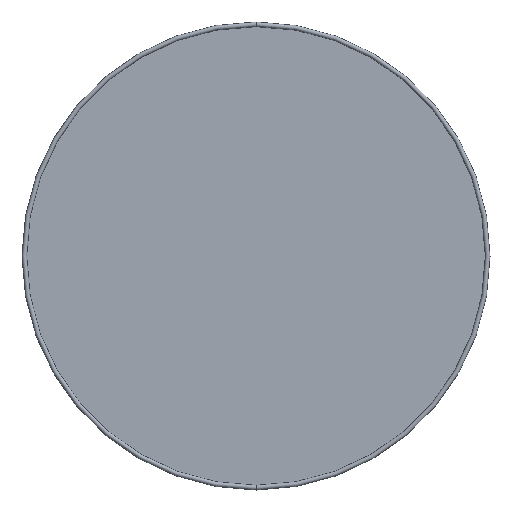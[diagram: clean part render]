
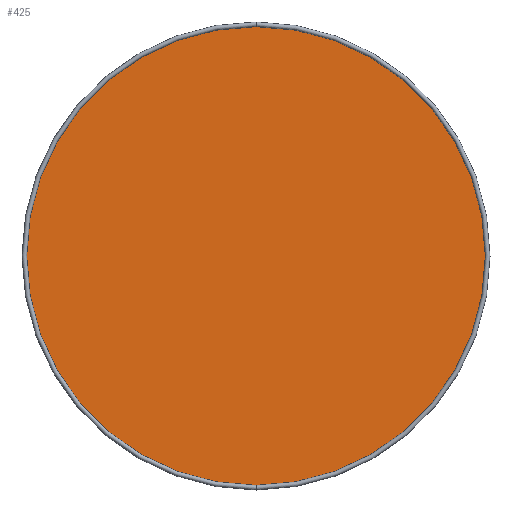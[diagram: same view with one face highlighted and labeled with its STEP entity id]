
A CAD part, front view. The second image highlights one B-rep face of the part: STEP entity #425.
In plain terms, the highlighted planar face has unit normal (0, -1, 0).
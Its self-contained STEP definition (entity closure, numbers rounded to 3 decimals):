
#42 = ORIENTED_EDGE ( 'NONE', *, *, #342, .F. ) ;
#175 = CARTESIAN_POINT ( 'NONE',  ( 0., -2.4, 297. ) ) ;
#196 = VERTEX_POINT ( 'NONE', #175 ) ;
#265 = CIRCLE ( 'NONE', #833, 297. ) ;
#319 = DIRECTION ( 'NONE',  ( 0., -1., 0. ) ) ;
#342 = EDGE_CURVE ( 'NONE', #196, #1054, #265, .T. ) ;
#394 = EDGE_LOOP ( 'NONE', ( #42, #1590 ) ) ;
#413 = CIRCLE ( 'NONE', #1115, 297. ) ;
#425 = ADVANCED_FACE ( 'NONE', ( #1325 ), #819, .T. ) ;
#442 = DIRECTION ( 'NONE',  ( 0., 0., -1. ) ) ;
#515 = AXIS2_PLACEMENT_3D ( 'NONE', #1086, #319, #442 ) ;
#713 = DIRECTION ( 'NONE',  ( 0., 0., 1. ) ) ;
#819 = PLANE ( 'NONE',  #515 ) ;
#833 = AXIS2_PLACEMENT_3D ( 'NONE', #1035, #1423, #1010 ) ;
#851 = CARTESIAN_POINT ( 'NONE',  ( 0., -2.4, 0. ) ) ;
#975 = CARTESIAN_POINT ( 'NONE',  ( 0., -2.4, -297. ) ) ;
#1010 = DIRECTION ( 'NONE',  ( 0., 0., 1. ) ) ;
#1035 = CARTESIAN_POINT ( 'NONE',  ( 0., -2.4, 0. ) ) ;
#1054 = VERTEX_POINT ( 'NONE', #975 ) ;
#1086 = CARTESIAN_POINT ( 'NONE',  ( 0., -2.4, 0. ) ) ;
#1115 = AXIS2_PLACEMENT_3D ( 'NONE', #851, #1346, #713 ) ;
#1121 = EDGE_CURVE ( 'NONE', #1054, #196, #413, .T. ) ;
#1325 = FACE_OUTER_BOUND ( 'NONE', #394, .T. ) ;
#1346 = DIRECTION ( 'NONE',  ( 0., 1., 0. ) ) ;
#1423 = DIRECTION ( 'NONE',  ( 0., 1., 0. ) ) ;
#1590 = ORIENTED_EDGE ( 'NONE', *, *, #1121, .F. ) ;
